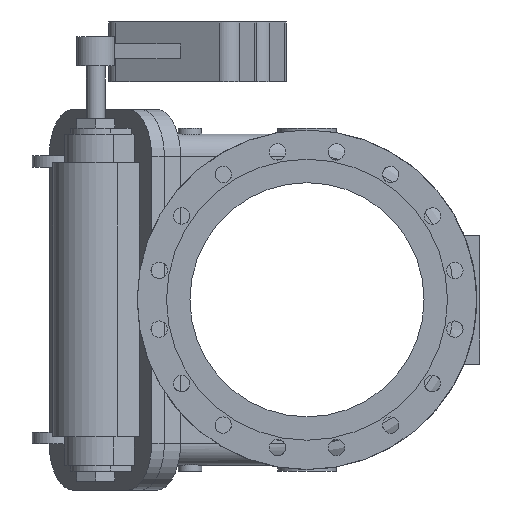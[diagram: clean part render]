
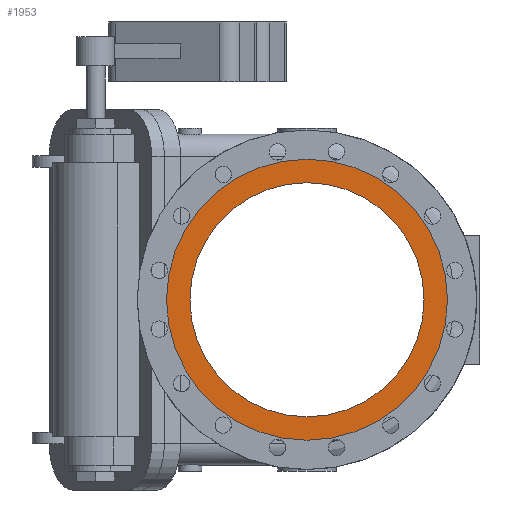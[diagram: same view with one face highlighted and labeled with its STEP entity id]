
A CAD part, left-side view. The second image highlights one B-rep face of the part: STEP entity #1953.
In plain terms, the highlighted planar face has unit normal (-1, 0, 0).
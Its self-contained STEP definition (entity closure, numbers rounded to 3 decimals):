
#838 = EDGE_LOOP ( 'NONE', ( #2202 ) ) ;
#842 = EDGE_LOOP ( 'NONE', ( #2201 ) ) ;
#1757 = CIRCLE ( 'NONE', #8463, 240. ) ;
#1775 = CIRCLE ( 'NONE', #8467, 200. ) ;
#1817 = EDGE_CURVE ( 'NONE', #3241, #3241, #1757, .T. ) ;
#1833 = EDGE_CURVE ( 'NONE', #3246, #3246, #1775, .T. ) ;
#1953 = ADVANCED_FACE ( 'NONE', ( #8844, #8851 ), #23424, .F. ) ;
#2201 = ORIENTED_EDGE ( 'NONE', *, *, #1833, .F. ) ;
#2202 = ORIENTED_EDGE ( 'NONE', *, *, #1817, .T. ) ;
#3241 = VERTEX_POINT ( 'NONE', #12564 ) ;
#3246 = VERTEX_POINT ( 'NONE', #12569 ) ;
#8463 = AXIS2_PLACEMENT_3D ( 'NONE', #11915, #11916, #11917 ) ;
#8467 = AXIS2_PLACEMENT_3D ( 'NONE', #12050, #12051, #12052 ) ;
#8538 = AXIS2_PLACEMENT_3D ( 'NONE', #23423, #23429, #23430 ) ;
#8844 = FACE_OUTER_BOUND ( 'NONE', #838, .T. ) ;
#8851 = FACE_BOUND ( 'NONE', #842, .T. ) ;
#11915 = CARTESIAN_POINT ( 'NONE',  ( -914., 0., 0. ) ) ;
#11916 = DIRECTION ( 'NONE',  ( -1., 0., 0. ) ) ;
#11917 = DIRECTION ( 'NONE',  ( 0., 0., 1. ) ) ;
#12050 = CARTESIAN_POINT ( 'NONE',  ( -914., 0., 0. ) ) ;
#12051 = DIRECTION ( 'NONE',  ( -1., 0., 0. ) ) ;
#12052 = DIRECTION ( 'NONE',  ( 0., 0., 1. ) ) ;
#12564 = CARTESIAN_POINT ( 'NONE',  ( -914., 0., 240. ) ) ;
#12569 = CARTESIAN_POINT ( 'NONE',  ( -914., 0., 200. ) ) ;
#23423 = CARTESIAN_POINT ( 'NONE',  ( -914., 0., 0. ) ) ;
#23424 = PLANE ( 'NONE',  #8538 ) ;
#23429 = DIRECTION ( 'NONE',  ( 1., 0., 0. ) ) ;
#23430 = DIRECTION ( 'NONE',  ( 0., 0., -1. ) ) ;
